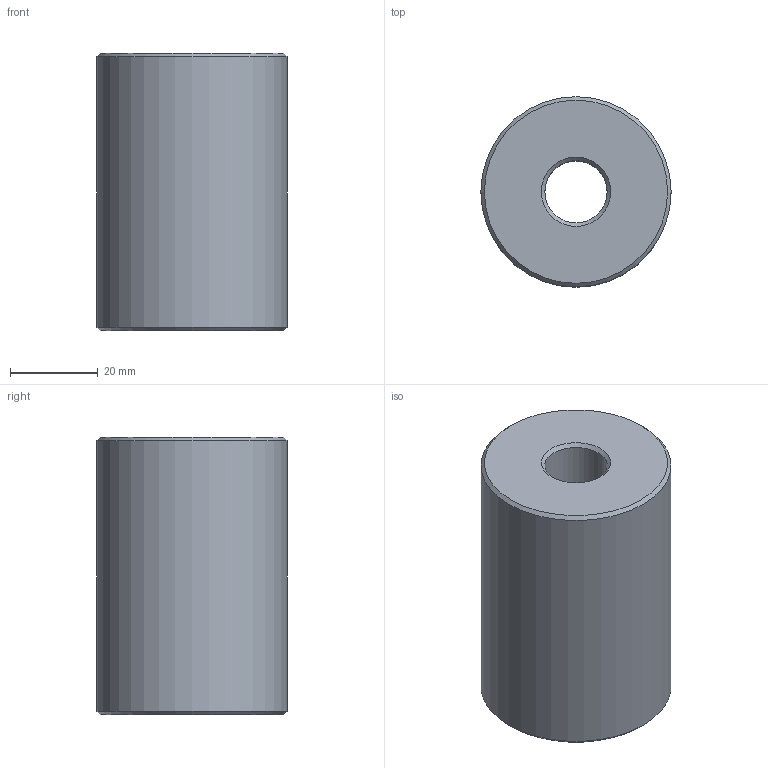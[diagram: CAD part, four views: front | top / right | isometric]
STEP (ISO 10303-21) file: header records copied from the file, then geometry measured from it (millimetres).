
FILE_DESCRIPTION(('Mechanical CAD reference from nasji.com'),'2;1');
FILE_NAME('NASJI.step','',(''),(''),'','NASJI distribution','');
FILE_SCHEMA(('AUTOMOTIVE_DESIGN { 1 0 10303 214 1 1 1 1 }'));
Length unit declared in the file: millimetre
Products named in the file (1): Open CASCADE STEP translator 7.8 53
Bounding box: 43.38 x 43.38 x 63.3 mm (x, y, z)
Volume: 83415.8 mm3; surface area: 13920.2 mm2
Topology: 1 solids, 1 shells, 8 faces, 14 edges, 8 vertices
Faces by surface type: cone 4, plane 2, cylinder 2
Full cylindrical faces by diameter (mm): 14.2 x1, 43.38 x1
Entity records: 382 total; most frequent: CARTESIAN_POINT 67, DIRECTION 60, ORIENTED_EDGE 28, PCURVE 28, DEFINITIONAL_REPRESENTATION 28, LINE 22, VECTOR 22, AXIS2_PLACEMENT_3D 17
